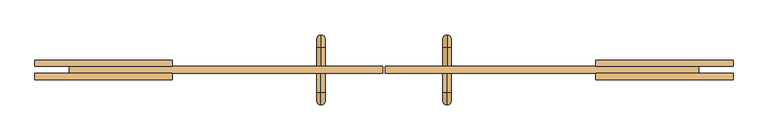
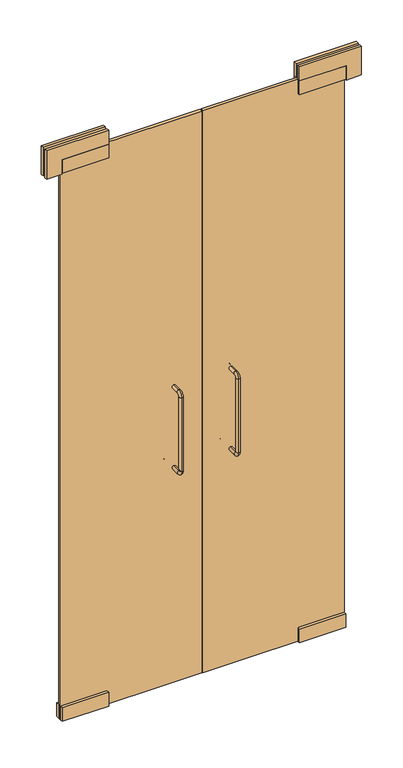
"""IFC4 building model written with IfcOpenShell, lengths in millimetres: door geometry, GLASSLINE_SLAGDÖRR GLAS GLAS Double Door : GLASSLINE_SLAGDÖRR GLAS GLAS Double Door."""

from ifc_helpers import new_model, si_unit, point, frame, origin, origin_with_axes, place, context, project, spatial, polyline, circle_curve, ellipse_curve, trimmed, outline, extrude, source, transform, mapped, element, save
from ifc_brep_helpers import plane_surface, cylinder_surface, revolved_surface, advanced_brep


def door_4bdab91e(model_context):
    return source(origin(), model_context, "Body", "SolidModel", [
        advanced_brep(
        [(-100.0040632, 11.0000553, 806.5000061), (-100.0040632, 11.0000553, 793.5000061), (-100.0040632, 41.5000164, 806.5000061), (-100.0040632, 41.5000164, 793.5000061), (-100.0040632, 61.0000164, 813.0000061), (-100.0040632, 48.0000164, 813.0000061), (-100.0040632, 48.0000164, 1086.9999939), (-100.0040632, 61.0000164, 1086.9999939), (-100.0040632, 41.5000164, 1106.4999939), (-100.0040632, 41.5000164, 1093.4999939), (-100.0040632, 11.0000553, 1093.4999939), (-100.0040632, 11.0000553, 1106.4999939)],
        [
            (0, 1, circle_curve(frame((-100.0040632, 11.0000553, 800.0000061), z_axis=(0.0, -1.0, 0.0), x_axis=(0.0, 0.0, -1.0)), 6.5)),
            (1, 0, circle_curve(frame((-100.0040632, 11.0000553, 800.0000061), z_axis=(0.0, -1.0, 0.0), x_axis=(0.0, 0.0, -1.0)), 6.5)),
            (0, 2),
            (2, 3, circle_curve(frame((-100.0040632, 41.5000164, 800.0000061), z_axis=(0.0, -1.0, 0.0), x_axis=(0.0, 0.0, -1.0)), 6.5)),
            (3, 1),
            (3, 2, circle_curve(frame((-100.0040632, 41.5000164, 800.0000061), z_axis=(0.0, -1.0, 0.0), x_axis=(0.0, 0.0, -1.0)), 6.5)),
            (4, 3, circle_curve(frame((-100.0040632, 41.5000164, 813.0000061), z_axis=(-1.0, 0.0, 0.0), x_axis=(0.0, 0.0, -1.0)), 19.5)),
            (2, 5, circle_curve(frame((-100.0040632, 41.5000164, 813.0000061), z_axis=(1.0, 0.0, 0.0), x_axis=(0.0, 0.0, -1.0)), 6.5)),
            (5, 4, circle_curve(frame((-100.0040632, 54.5000164, 813.0000061), z_axis=(0.0, 0.0, -1.0), x_axis=(0.0, 1.0, 0.0)), 6.5)),
            (4, 5, circle_curve(frame((-100.0040632, 54.5000164, 813.0000061), z_axis=(0.0, 0.0, -1.0), x_axis=(0.0, 1.0, 0.0)), 6.5)),
            (5, 6),
            (6, 7, circle_curve(frame((-100.0040632, 54.5000164, 1086.9999939), z_axis=(0.0, 0.0, -1.0), x_axis=(0.0, 1.0, 0.0)), 6.5)),
            (7, 4),
            (7, 6, circle_curve(frame((-100.0040632, 54.5000164, 1086.9999939), z_axis=(0.0, 0.0, -1.0), x_axis=(0.0, 1.0, 0.0)), 6.5)),
            (8, 7, circle_curve(frame((-100.0040632, 41.5000164, 1086.9999939), z_axis=(-1.0, 0.0, 0.0), x_axis=(0.0, 1.0, 0.0)), 19.5)),
            (6, 9, circle_curve(frame((-100.0040632, 41.5000164, 1086.9999939), z_axis=(1.0, 0.0, 0.0), x_axis=(0.0, 1.0, 0.0)), 6.5)),
            (9, 8, circle_curve(frame((-100.0040632, 41.5000164, 1099.9999939), z_axis=(0.0, 1.0, 0.0), x_axis=(0.0, 0.0, 1.0)), 6.5)),
            (8, 9, circle_curve(frame((-100.0040632, 41.5000164, 1099.9999939), z_axis=(0.0, 1.0, 0.0), x_axis=(0.0, 0.0, 1.0)), 6.5)),
            (10, 11, circle_curve(frame((-100.0040632, 11.0000553, 1099.9999939), z_axis=(0.0, -1.0, 0.0), x_axis=(0.0, 0.0, 1.0)), 6.5)),
            (11, 10, circle_curve(frame((-100.0040632, 11.0000553, 1099.9999939), z_axis=(0.0, -1.0, 0.0), x_axis=(0.0, 0.0, 1.0)), 6.5)),
            (9, 10),
            (11, 8),
        ],
        [
            plane_surface(frame((-499.5, 11.0000553, 800.0000061), z_axis=(0.0, -1.0, 0.0), x_axis=(-1.0, 0.0, 0.0))),
            cylinder_surface(frame((-100.0040632, 11.0000553, 800.0000061), z_axis=(0.0, -1.0, 0.0), x_axis=(0.0, 0.0, -1.0)), 6.5),
            revolved_surface(trimmed(ellipse_curve(frame((-100.0040632, 41.5000164, 800.0000061), z_axis=(0.0, -1.0, 0.0), x_axis=(0.0, 0.0, -1.0)), 6.5, 6.5), [point((-100.0040632, 41.5000164, 806.5000061))], [point((-100.0040632, 41.5000164, 793.5000061))], True, "CARTESIAN"), (-499.5, 41.5000164, 813.0000061), (1.0, 0.0, 0.0)),
            revolved_surface(trimmed(ellipse_curve(frame((-100.0040632, 41.5000164, 800.0000061), z_axis=(0.0, -1.0, 0.0), x_axis=(0.0, 0.0, -1.0)), 6.5, 6.5), [point((-100.0040632, 41.5000164, 793.5000061))], [point((-100.0040632, 41.5000164, 806.5000061))], True, "CARTESIAN"), (-499.5, 41.5000164, 813.0000061), (1.0, 0.0, 0.0)),
            cylinder_surface(frame((-100.0040632, 54.5000164, 813.0000061), z_axis=(0.0, 0.0, -1.0), x_axis=(0.0, 1.0, 0.0)), 6.5),
            revolved_surface(trimmed(ellipse_curve(frame((-100.0040632, 54.5000164, 1086.9999939), z_axis=(0.0, 0.0, -1.0), x_axis=(0.0, 1.0, 0.0)), 6.5, 6.5), [point((-100.0040632, 48.0000164, 1086.9999939))], [point((-100.0040632, 61.0000164, 1086.9999939))], True, "CARTESIAN"), (-499.5, 41.5000164, 1086.9999939), (1.0, 0.0, 0.0)),
            revolved_surface(trimmed(ellipse_curve(frame((-100.0040632, 54.5000164, 1086.9999939), z_axis=(0.0, 0.0, -1.0), x_axis=(0.0, 1.0, 0.0)), 6.5, 6.5), [point((-100.0040632, 61.0000164, 1086.9999939))], [point((-100.0040632, 48.0000164, 1086.9999939))], True, "CARTESIAN"), (-499.5, 41.5000164, 1086.9999939), (1.0, 0.0, 0.0)),
            plane_surface(frame((-499.5, 11.0000553, 1099.9999939), z_axis=(0.0, -1.0, 0.0), x_axis=(-1.0, 0.0, 0.0))),
            cylinder_surface(frame((-100.0040632, 41.5000164, 1099.9999939), z_axis=(0.0, 1.0, 0.0), x_axis=(0.0, 0.0, 1.0)), 6.5),
        ],
        [
            (0, [[1, 2]]),
            (1, [[-1, 3, 4, 5]]),
            (1, [[-2, -5, 6, -3]]),
            (2, [[7, -4, 8, 9]]),
            (3, [[-8, -6, -7, 10]]),
            (4, [[-9, 11, 12, 13]]),
            (4, [[-10, -13, 14, -11]]),
            (5, [[15, -12, 16, 17]]),
            (6, [[-16, -14, -15, 18]]),
            (7, [[19, 20]]),
            (8, [[-17, 21, -20, 22]]),
            (8, [[-18, -22, -19, -21]]),
        ],
    ),
        advanced_brep(
        [(-100.0040632, 0.0, 793.5000061), (-100.0040632, 0.0, 806.5000061), (-100.0040632, -30.4999611, 806.5000061), (-100.0040632, -30.4999611, 793.5000061), (-100.0040632, -49.9999611, 813.0000061), (-100.0040632, -36.9999611, 813.0000061), (-100.0040632, -36.9999611, 1086.9999939), (-100.0040632, -49.9999611, 1086.9999939), (-100.0040632, -30.4999611, 1106.4999939), (-100.0040632, -30.4999611, 1093.4999939), (-100.0040632, 0.0, 1106.4999939), (-100.0040632, 0.0, 1093.4999939)],
        [
            (0, 1, circle_curve(frame((-100.0040632, 0.0, 800.0000061), z_axis=(0.0, 1.0, 0.0), x_axis=(0.0, 0.0, 1.0)), 6.5)),
            (1, 0, circle_curve(frame((-100.0040632, 0.0, 800.0000061), z_axis=(0.0, 1.0, 0.0), x_axis=(0.0, 0.0, 1.0)), 6.5)),
            (1, 2),
            (2, 3, circle_curve(frame((-100.0040632, -30.4999611, 800.0000061), z_axis=(0.0, 1.0, 0.0), x_axis=(0.0, 0.0, 1.0)), 6.5)),
            (3, 0),
            (3, 2, circle_curve(frame((-100.0040632, -30.4999611, 800.0000061), z_axis=(0.0, 1.0, 0.0), x_axis=(0.0, 0.0, 1.0)), 6.5)),
            (4, 3, circle_curve(frame((-100.0040632, -30.4999611, 813.0000061), z_axis=(1.0, 0.0, 0.0), x_axis=(0.0, 0.0, -1.0)), 19.5)),
            (2, 5, circle_curve(frame((-100.0040632, -30.4999611, 813.0000061), z_axis=(-1.0, 0.0, 0.0), x_axis=(0.0, 0.0, -1.0)), 6.5)),
            (5, 4, circle_curve(frame((-100.0040632, -43.4999611, 813.0000061), z_axis=(0.0, 0.0, -1.0), x_axis=(0.0, 1.0, 0.0)), 6.5)),
            (4, 5, circle_curve(frame((-100.0040632, -43.4999611, 813.0000061), z_axis=(0.0, 0.0, -1.0), x_axis=(0.0, 1.0, 0.0)), 6.5)),
            (5, 6),
            (6, 7, circle_curve(frame((-100.0040632, -43.4999611, 1086.9999939), z_axis=(0.0, 0.0, -1.0), x_axis=(0.0, 1.0, 0.0)), 6.5)),
            (7, 4),
            (7, 6, circle_curve(frame((-100.0040632, -43.4999611, 1086.9999939), z_axis=(0.0, 0.0, -1.0), x_axis=(0.0, 1.0, 0.0)), 6.5)),
            (8, 7, circle_curve(frame((-100.0040632, -30.4999611, 1086.9999939), z_axis=(1.0, 0.0, 0.0), x_axis=(0.0, -1.0, 0.0)), 19.5)),
            (6, 9, circle_curve(frame((-100.0040632, -30.4999611, 1086.9999939), z_axis=(-1.0, 0.0, 0.0), x_axis=(0.0, -1.0, 0.0)), 6.5)),
            (9, 8, circle_curve(frame((-100.0040632, -30.4999611, 1099.9999939), z_axis=(0.0, -1.0, 0.0), x_axis=(0.0, 0.0, -1.0)), 6.5)),
            (8, 9, circle_curve(frame((-100.0040632, -30.4999611, 1099.9999939), z_axis=(0.0, -1.0, 0.0), x_axis=(0.0, 0.0, -1.0)), 6.5)),
            (10, 11, circle_curve(frame((-100.0040632, 0.0, 1099.9999939), z_axis=(0.0, 1.0, 0.0), x_axis=(0.0, 0.0, -1.0)), 6.5)),
            (11, 10, circle_curve(frame((-100.0040632, 0.0, 1099.9999939), z_axis=(0.0, 1.0, 0.0), x_axis=(0.0, 0.0, -1.0)), 6.5)),
            (9, 11),
            (10, 8),
        ],
        [
            plane_surface(frame((-499.5, 0.0, 800.0000061), z_axis=(0.0, 1.0, 0.0), x_axis=(-1.0, 0.0, 0.0))),
            cylinder_surface(frame((-100.0040632, 0.0, 800.0000061), z_axis=(0.0, 1.0, 0.0), x_axis=(0.0, 0.0, 1.0)), 6.5),
            revolved_surface(trimmed(ellipse_curve(frame((-100.0040632, -30.4999611, 800.0000061), z_axis=(0.0, 1.0, 0.0), x_axis=(0.0, 0.0, 1.0)), 6.5, 6.5), [point((-100.0040632, -30.4999611, 806.5000061))], [point((-100.0040632, -30.4999611, 793.5000061))], True, "CARTESIAN"), (-499.5, -30.4999611, 813.0000061), (-1.0, 0.0, 0.0)),
            revolved_surface(trimmed(ellipse_curve(frame((-100.0040632, -30.4999611, 800.0000061), z_axis=(0.0, 1.0, 0.0), x_axis=(0.0, 0.0, 1.0)), 6.5, 6.5), [point((-100.0040632, -30.4999611, 793.5000061))], [point((-100.0040632, -30.4999611, 806.5000061))], True, "CARTESIAN"), (-499.5, -30.4999611, 813.0000061), (-1.0, 0.0, 0.0)),
            cylinder_surface(frame((-100.0040632, -43.4999611, 813.0000061), z_axis=(0.0, 0.0, -1.0), x_axis=(0.0, 1.0, 0.0)), 6.5),
            revolved_surface(trimmed(ellipse_curve(frame((-100.0040632, -43.4999611, 1086.9999939), z_axis=(0.0, 0.0, -1.0), x_axis=(0.0, 1.0, 0.0)), 6.5, 6.5), [point((-100.0040632, -36.9999611, 1086.9999939))], [point((-100.0040632, -49.9999611, 1086.9999939))], True, "CARTESIAN"), (-499.5, -30.4999611, 1086.9999939), (-1.0, 0.0, 0.0)),
            revolved_surface(trimmed(ellipse_curve(frame((-100.0040632, -43.4999611, 1086.9999939), z_axis=(0.0, 0.0, -1.0), x_axis=(0.0, 1.0, 0.0)), 6.5, 6.5), [point((-100.0040632, -49.9999611, 1086.9999939))], [point((-100.0040632, -36.9999611, 1086.9999939))], True, "CARTESIAN"), (-499.5, -30.4999611, 1086.9999939), (-1.0, 0.0, 0.0)),
            plane_surface(frame((-499.5, 0.0, 1099.9999939), z_axis=(0.0, 1.0, 0.0), x_axis=(-1.0, 0.0, 0.0))),
            cylinder_surface(frame((-100.0040632, -30.4999611, 1099.9999939), z_axis=(0.0, -1.0, 0.0), x_axis=(0.0, 0.0, -1.0)), 6.5),
        ],
        [
            (0, [[1, 2]]),
            (1, [[-2, 3, 4, 5]]),
            (1, [[-1, -5, 6, -3]]),
            (2, [[7, -4, 8, 9]]),
            (3, [[-8, -6, -7, 10]]),
            (4, [[-9, 11, 12, 13]]),
            (4, [[-10, -13, 14, -11]]),
            (5, [[15, -12, 16, 17]]),
            (6, [[-16, -14, -15, 18]]),
            (7, [[19, 20]]),
            (8, [[-17, 21, -19, 22]]),
            (8, [[-18, -22, -20, -21]]),
        ],
    ),
        advanced_brep(
        [(100.0040632, 11.0, 793.5000061), (100.0040632, 11.0, 806.5000061), (100.0040632, 41.4999611, 806.5000061), (100.0040632, 41.4999611, 793.5000061), (100.0040632, 60.9999611, 813.0000061), (100.0040632, 47.9999611, 813.0000061), (100.0040632, 47.9999611, 1086.9999939), (100.0040632, 60.9999611, 1086.9999939), (100.0040632, 41.4999611, 1106.4999939), (100.0040632, 41.4999611, 1093.4999939), (100.0040632, 11.0, 1106.4999939), (100.0040632, 11.0, 1093.4999939)],
        [
            (0, 1, circle_curve(frame((100.0040632, 11.0, 800.0000061), z_axis=(0.0, -1.0, 0.0), x_axis=(0.0, 0.0, 1.0)), 6.5)),
            (1, 0, circle_curve(frame((100.0040632, 11.0, 800.0000061), z_axis=(0.0, -1.0, 0.0), x_axis=(0.0, 0.0, 1.0)), 6.5)),
            (1, 2),
            (2, 3, circle_curve(frame((100.0040632, 41.4999611, 800.0000061), z_axis=(0.0, -1.0, 0.0), x_axis=(0.0, 0.0, 1.0)), 6.5)),
            (3, 0),
            (3, 2, circle_curve(frame((100.0040632, 41.4999611, 800.0000061), z_axis=(0.0, -1.0, 0.0), x_axis=(0.0, 0.0, 1.0)), 6.5)),
            (4, 3, circle_curve(frame((100.0040632, 41.4999611, 813.0000061), z_axis=(-1.0, 0.0, 0.0), x_axis=(0.0, 0.0, -1.0)), 19.5)),
            (2, 5, circle_curve(frame((100.0040632, 41.4999611, 813.0000061), z_axis=(1.0, 0.0, 0.0), x_axis=(0.0, 0.0, -1.0)), 6.5)),
            (5, 4, circle_curve(frame((100.0040632, 54.4999611, 813.0000061), z_axis=(0.0, 0.0, -1.0), x_axis=(0.0, -1.0, 0.0)), 6.5)),
            (4, 5, circle_curve(frame((100.0040632, 54.4999611, 813.0000061), z_axis=(0.0, 0.0, -1.0), x_axis=(0.0, -1.0, 0.0)), 6.5)),
            (5, 6),
            (6, 7, circle_curve(frame((100.0040632, 54.4999611, 1086.9999939), z_axis=(0.0, 0.0, -1.0), x_axis=(0.0, -1.0, 0.0)), 6.5)),
            (7, 4),
            (7, 6, circle_curve(frame((100.0040632, 54.4999611, 1086.9999939), z_axis=(0.0, 0.0, -1.0), x_axis=(0.0, -1.0, 0.0)), 6.5)),
            (8, 7, circle_curve(frame((100.0040632, 41.4999611, 1086.9999939), z_axis=(-1.0, 0.0, 0.0), x_axis=(0.0, 1.0, 0.0)), 19.5)),
            (6, 9, circle_curve(frame((100.0040632, 41.4999611, 1086.9999939), z_axis=(1.0, 0.0, 0.0), x_axis=(0.0, 1.0, 0.0)), 6.5)),
            (9, 8, circle_curve(frame((100.0040632, 41.4999611, 1099.9999939), z_axis=(0.0, 1.0, 0.0), x_axis=(0.0, 0.0, -1.0)), 6.5)),
            (8, 9, circle_curve(frame((100.0040632, 41.4999611, 1099.9999939), z_axis=(0.0, 1.0, 0.0), x_axis=(0.0, 0.0, -1.0)), 6.5)),
            (10, 11, circle_curve(frame((100.0040632, 11.0, 1099.9999939), z_axis=(0.0, -1.0, 0.0), x_axis=(0.0, 0.0, -1.0)), 6.5)),
            (11, 10, circle_curve(frame((100.0040632, 11.0, 1099.9999939), z_axis=(0.0, -1.0, 0.0), x_axis=(0.0, 0.0, -1.0)), 6.5)),
            (9, 11),
            (10, 8),
        ],
        [
            plane_surface(frame((499.5, 11.0, 800.0000061), z_axis=(0.0, -1.0, 0.0), x_axis=(1.0, 0.0, 0.0))),
            cylinder_surface(frame((100.0040632, 11.0, 800.0000061), z_axis=(0.0, -1.0, 0.0), x_axis=(0.0, 0.0, 1.0)), 6.5),
            revolved_surface(trimmed(ellipse_curve(frame((100.0040632, 41.4999611, 800.0000061), z_axis=(0.0, -1.0, 0.0), x_axis=(0.0, 0.0, 1.0)), 6.5, 6.5), [point((100.0040632, 41.4999611, 806.5000061))], [point((100.0040632, 41.4999611, 793.5000061))], True, "CARTESIAN"), (499.5, 41.4999611, 813.0000061), (1.0, 0.0, 0.0)),
            revolved_surface(trimmed(ellipse_curve(frame((100.0040632, 41.4999611, 800.0000061), z_axis=(0.0, -1.0, 0.0), x_axis=(0.0, 0.0, 1.0)), 6.5, 6.5), [point((100.0040632, 41.4999611, 793.5000061))], [point((100.0040632, 41.4999611, 806.5000061))], True, "CARTESIAN"), (499.5, 41.4999611, 813.0000061), (1.0, 0.0, 0.0)),
            cylinder_surface(frame((100.0040632, 54.4999611, 813.0000061), z_axis=(0.0, 0.0, -1.0), x_axis=(0.0, -1.0, 0.0)), 6.5),
            revolved_surface(trimmed(ellipse_curve(frame((100.0040632, 54.4999611, 1086.9999939), z_axis=(0.0, 0.0, -1.0), x_axis=(0.0, -1.0, 0.0)), 6.5, 6.5), [point((100.0040632, 47.9999611, 1086.9999939))], [point((100.0040632, 60.9999611, 1086.9999939))], True, "CARTESIAN"), (499.5, 41.4999611, 1086.9999939), (1.0, 0.0, 0.0)),
            revolved_surface(trimmed(ellipse_curve(frame((100.0040632, 54.4999611, 1086.9999939), z_axis=(0.0, 0.0, -1.0), x_axis=(0.0, -1.0, 0.0)), 6.5, 6.5), [point((100.0040632, 60.9999611, 1086.9999939))], [point((100.0040632, 47.9999611, 1086.9999939))], True, "CARTESIAN"), (499.5, 41.4999611, 1086.9999939), (1.0, 0.0, 0.0)),
            plane_surface(frame((499.5, 11.0, 1099.9999939), z_axis=(0.0, -1.0, 0.0), x_axis=(1.0, 0.0, 0.0))),
            cylinder_surface(frame((100.0040632, 41.4999611, 1099.9999939), z_axis=(0.0, 1.0, 0.0), x_axis=(0.0, 0.0, -1.0)), 6.5),
        ],
        [
            (0, [[1, 2]]),
            (1, [[-2, 3, 4, 5]]),
            (1, [[-1, -5, 6, -3]]),
            (2, [[7, -4, 8, 9]]),
            (3, [[-8, -6, -7, 10]]),
            (4, [[-9, 11, 12, 13]]),
            (4, [[-10, -13, 14, -11]]),
            (5, [[15, -12, 16, 17]]),
            (6, [[-16, -14, -15, 18]]),
            (7, [[19, 20]]),
            (8, [[-17, 21, -19, 22]]),
            (8, [[-18, -22, -20, -21]]),
        ],
    ),
        advanced_brep(
        [(100.0040632, 0.0, 806.5000061), (100.0040632, 0.0, 793.5000061), (100.0040632, -30.4999611, 806.5000061), (100.0040632, -30.4999611, 793.5000061), (100.0040632, -49.9999611, 813.0000061), (100.0040632, -36.9999611, 813.0000061), (100.0040632, -36.9999611, 1086.9999939), (100.0040632, -49.9999611, 1086.9999939), (100.0040632, -30.4999611, 1106.4999939), (100.0040632, -30.4999611, 1093.4999939), (100.0040632, 0.0, 1093.4999939), (100.0040632, 0.0, 1106.4999939)],
        [
            (0, 1, circle_curve(frame((100.0040632, 0.0, 800.0000061), z_axis=(0.0, 1.0, 0.0), x_axis=(0.0, 0.0, -1.0)), 6.5)),
            (1, 0, circle_curve(frame((100.0040632, 0.0, 800.0000061), z_axis=(0.0, 1.0, 0.0), x_axis=(0.0, 0.0, -1.0)), 6.5)),
            (0, 2),
            (2, 3, circle_curve(frame((100.0040632, -30.4999611, 800.0000061), z_axis=(0.0, 1.0, 0.0), x_axis=(0.0, 0.0, -1.0)), 6.5)),
            (3, 1),
            (3, 2, circle_curve(frame((100.0040632, -30.4999611, 800.0000061), z_axis=(0.0, 1.0, 0.0), x_axis=(0.0, 0.0, -1.0)), 6.5)),
            (4, 3, circle_curve(frame((100.0040632, -30.4999611, 813.0000061), z_axis=(1.0, 0.0, 0.0), x_axis=(0.0, 0.0, -1.0)), 19.5)),
            (2, 5, circle_curve(frame((100.0040632, -30.4999611, 813.0000061), z_axis=(-1.0, 0.0, 0.0), x_axis=(0.0, 0.0, -1.0)), 6.5)),
            (5, 4, circle_curve(frame((100.0040632, -43.4999611, 813.0000061), z_axis=(0.0, 0.0, -1.0), x_axis=(0.0, -1.0, 0.0)), 6.5)),
            (4, 5, circle_curve(frame((100.0040632, -43.4999611, 813.0000061), z_axis=(0.0, 0.0, -1.0), x_axis=(0.0, -1.0, 0.0)), 6.5)),
            (5, 6),
            (6, 7, circle_curve(frame((100.0040632, -43.4999611, 1086.9999939), z_axis=(0.0, 0.0, -1.0), x_axis=(0.0, -1.0, 0.0)), 6.5)),
            (7, 4),
            (7, 6, circle_curve(frame((100.0040632, -43.4999611, 1086.9999939), z_axis=(0.0, 0.0, -1.0), x_axis=(0.0, -1.0, 0.0)), 6.5)),
            (8, 7, circle_curve(frame((100.0040632, -30.4999611, 1086.9999939), z_axis=(1.0, 0.0, 0.0), x_axis=(0.0, -1.0, 0.0)), 19.5)),
            (6, 9, circle_curve(frame((100.0040632, -30.4999611, 1086.9999939), z_axis=(-1.0, 0.0, 0.0), x_axis=(0.0, -1.0, 0.0)), 6.5)),
            (9, 8, circle_curve(frame((100.0040632, -30.4999611, 1099.9999939), z_axis=(0.0, -1.0, 0.0), x_axis=(0.0, 0.0, 1.0)), 6.5)),
            (8, 9, circle_curve(frame((100.0040632, -30.4999611, 1099.9999939), z_axis=(0.0, -1.0, 0.0), x_axis=(0.0, 0.0, 1.0)), 6.5)),
            (10, 11, circle_curve(frame((100.0040632, 0.0, 1099.9999939), z_axis=(0.0, 1.0, 0.0), x_axis=(0.0, 0.0, 1.0)), 6.5)),
            (11, 10, circle_curve(frame((100.0040632, 0.0, 1099.9999939), z_axis=(0.0, 1.0, 0.0), x_axis=(0.0, 0.0, 1.0)), 6.5)),
            (9, 10),
            (11, 8),
        ],
        [
            plane_surface(frame((499.5, 0.0, 800.0000061), z_axis=(0.0, 1.0, 0.0), x_axis=(1.0, 0.0, 0.0))),
            cylinder_surface(frame((100.0040632, 0.0, 800.0000061), z_axis=(0.0, 1.0, 0.0), x_axis=(0.0, 0.0, -1.0)), 6.5),
            revolved_surface(trimmed(ellipse_curve(frame((100.0040632, -30.4999611, 800.0000061), z_axis=(0.0, 1.0, 0.0), x_axis=(0.0, 0.0, -1.0)), 6.5, 6.5), [point((100.0040632, -30.4999611, 806.5000061))], [point((100.0040632, -30.4999611, 793.5000061))], True, "CARTESIAN"), (499.5, -30.4999611, 813.0000061), (-1.0, 0.0, 0.0)),
            revolved_surface(trimmed(ellipse_curve(frame((100.0040632, -30.4999611, 800.0000061), z_axis=(0.0, 1.0, 0.0), x_axis=(0.0, 0.0, -1.0)), 6.5, 6.5), [point((100.0040632, -30.4999611, 793.5000061))], [point((100.0040632, -30.4999611, 806.5000061))], True, "CARTESIAN"), (499.5, -30.4999611, 813.0000061), (-1.0, 0.0, 0.0)),
            cylinder_surface(frame((100.0040632, -43.4999611, 813.0000061), z_axis=(0.0, 0.0, -1.0), x_axis=(0.0, -1.0, 0.0)), 6.5),
            revolved_surface(trimmed(ellipse_curve(frame((100.0040632, -43.4999611, 1086.9999939), z_axis=(0.0, 0.0, -1.0), x_axis=(0.0, -1.0, 0.0)), 6.5, 6.5), [point((100.0040632, -36.9999611, 1086.9999939))], [point((100.0040632, -49.9999611, 1086.9999939))], True, "CARTESIAN"), (499.5, -30.4999611, 1086.9999939), (-1.0, 0.0, 0.0)),
            revolved_surface(trimmed(ellipse_curve(frame((100.0040632, -43.4999611, 1086.9999939), z_axis=(0.0, 0.0, -1.0), x_axis=(0.0, -1.0, 0.0)), 6.5, 6.5), [point((100.0040632, -49.9999611, 1086.9999939))], [point((100.0040632, -36.9999611, 1086.9999939))], True, "CARTESIAN"), (499.5, -30.4999611, 1086.9999939), (-1.0, 0.0, 0.0)),
            plane_surface(frame((499.5, 0.0, 1099.9999939), z_axis=(0.0, 1.0, 0.0), x_axis=(1.0, 0.0, 0.0))),
            cylinder_surface(frame((100.0040632, -30.4999611, 1099.9999939), z_axis=(0.0, -1.0, 0.0), x_axis=(0.0, 0.0, 1.0)), 6.5),
        ],
        [
            (0, [[1, 2]]),
            (1, [[-1, 3, 4, 5]]),
            (1, [[-2, -5, 6, -3]]),
            (2, [[7, -4, 8, 9]]),
            (3, [[-8, -6, -7, 10]]),
            (4, [[-9, 11, 12, 13]]),
            (4, [[-10, -13, 14, -11]]),
            (5, [[15, -12, 16, 17]]),
            (6, [[-16, -14, -15, 18]]),
            (7, [[19, 20]]),
            (8, [[-17, 21, -20, 22]]),
            (8, [[-18, -22, -19, -21]]),
        ],
    ),
        extrude(outline(polyline([(336.0040082, 21.0), (499.5, 21.0), (499.5, 11.0), (336.0040082, 11.0), (336.0040082, 21.0)])), frame((0.0, 0.0, 2038.9999603), z_axis=(0.0, 0.0, 1.0), x_axis=(1.0, 0.0, 0.0)), (0.0, 0.0, 1.0), 51.0000847),
        extrude(outline(polyline([(336.0040082, 11.0000553), (336.0040082, 21.0000553), (499.5, 21.0000553), (499.5, 11.0000553), (336.0040082, 11.0000553)])), origin_with_axes(), (0.0, 0.0, 1.0), 50.0),
        extrude(outline(polyline([(-335.9995453, 11.0), (-499.5, 11.0), (-499.5, 21.0), (-335.9995453, 21.0), (-335.9995453, 11.0)])), frame((0.0, 0.0, 2039.000045), z_axis=(0.0, 0.0, 1.0), x_axis=(1.0, 0.0, 0.0)), (0.0, 0.0, 1.0), 51.0),
        extrude(outline(polyline([(-335.9995453, 11.0), (-499.5, 11.0), (-499.5, 21.0), (-335.9995453, 21.0), (-335.9995453, 11.0)])), origin_with_axes(), (0.0, 0.0, 1.0), 51.0),
        extrude(outline(polyline([(2142.0000687, -554.0001923), (2035.9999981, -554.0001923), (2035.9999981, -500.0), (2090.000045, -500.0), (2090.000045, -335.9995453), (2142.0000687, -335.9995453), (2142.0000687, -554.0001923)])), frame((0.0, 11.0, 0.0), z_axis=(0.0, 1.0, 0.0), x_axis=(0.0, 0.0, 1.0)), (0.0, 0.0, 1.0), 10.0),
        extrude(outline(polyline([(2142.0000687, 336.0040082), (2090.000045, 336.0040082), (2090.000045, 500.0), (2035.9999981, 500.0), (2035.9999981, 554.0034925), (2142.0000687, 554.0034925), (2142.0000687, 336.0040082)])), frame((0.0, 11.0, 0.0), z_axis=(0.0, 1.0, 0.0), x_axis=(0.0, 0.0, 1.0)), (0.0, 0.0, 1.0), 10.0),
        extrude(outline(polyline([(2142.0000687, -554.0001923), (2035.9999981, -554.0001923), (2035.9999981, -500.0), (2090.000045, -500.0), (2090.000045, -335.9995453), (2142.0000687, -335.9995453), (2142.0000687, -554.0001923)])), frame((0.0, -10.0, 0.0), z_axis=(0.0, 1.0, 0.0), x_axis=(0.0, 0.0, 1.0)), (0.0, 0.0, 1.0), 10.0),
        extrude(outline(polyline([(2142.0000687, 336.0040082), (2090.000045, 336.0040082), (2090.000045, 500.0), (2035.9999981, 500.0), (2035.9999981, 554.0034925), (2142.0000687, 554.0034925), (2142.0000687, 336.0040082)])), frame((0.0, -10.0, 0.0), z_axis=(0.0, 1.0, 0.0), x_axis=(0.0, 0.0, 1.0)), (0.0, 0.0, 1.0), 10.0),
        extrude(outline(polyline([(336.0040082, 0.0), (499.5, 0.0), (499.5, -10.0), (336.0040082, -10.0), (336.0040082, 0.0)])), frame((0.0, 0.0, 2038.9999603), z_axis=(0.0, 0.0, 1.0), x_axis=(1.0, 0.0, 0.0)), (0.0, 0.0, 1.0), 51.0000847),
        extrude(outline(polyline([(-335.9995453, -10.0), (-499.5, -10.0), (-499.5, 0.0), (-335.9995453, 0.0), (-335.9995453, -10.0)])), frame((0.0, 0.0, 2039.000045), z_axis=(0.0, 0.0, 1.0), x_axis=(1.0, 0.0, 0.0)), (0.0, 0.0, 1.0), 51.0),
        extrude(outline(polyline([(-335.9995453, -10.0), (-499.5, -10.0), (-499.5, 0.0), (-335.9995453, 0.0), (-335.9995453, -10.0)])), origin_with_axes(), (0.0, 0.0, 1.0), 51.0),
        extrude(outline(polyline([(336.0040082, 0.0), (499.5, 0.0), (499.5, -10.0), (336.0040082, -10.0), (336.0040082, 0.0)])), origin_with_axes(), (0.0, 0.0, 1.0), 50.9999984),
        extrude(outline(polyline([(499.5, 0.0), (2.0, 0.0), (2.0, 11.0), (499.5, 11.0), (499.5, 0.0)])), origin_with_axes(), (0.0, 0.0, 1.0), 2090.000045),
        extrude(outline(polyline([(-2.0426159, 11.0), (-2.0426159, 0.0), (-499.5, 0.0), (-499.5, 11.0), (-2.0426159, 11.0)])), origin_with_axes(), (0.0, 0.0, 1.0), 2090.000045),
    ])


if __name__ == "__main__":
    model = new_model("IFC4")
    model_context = context("Model", 3, world=origin())
    ifc_project = project(units=[si_unit("LENGTHUNIT", "METRE", prefix="MILLI")], contexts=[model_context])
    site = spatial("IfcSite", under=ifc_project)
    building = spatial("IfcBuilding", under=site)
    placement = place(None, origin())
    door_shape = door_4bdab91e(model_context)
    element("IfcDoor", 1, ObjectType="GLASSLINE_SLAGDÖRR GLAS GLAS Double Door : GLASSLINE_SLAGDÖRR GLAS GLAS Double Door", at=placement, inside=building, context=model_context, shape_type="MappedRepresentation", body=[
        mapped(door_shape, transform((0.0, 0.0, 0.0), x_axis=(1.0, 0.0, 0.0), y_axis=(0.0, 1.0, 0.0), z_axis=(0.0, 0.0, 1.0))),
    ])
    save(model, "model.ifc")
